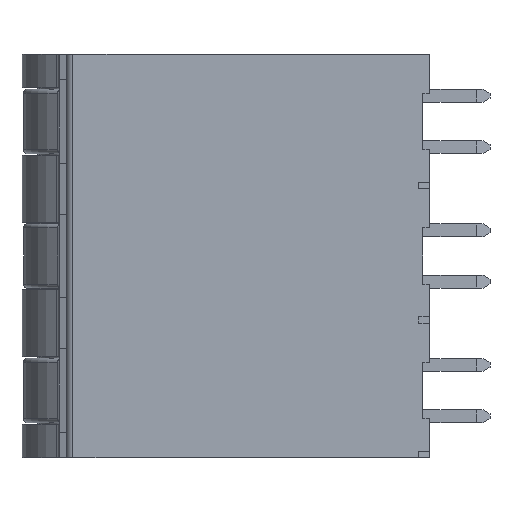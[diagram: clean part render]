
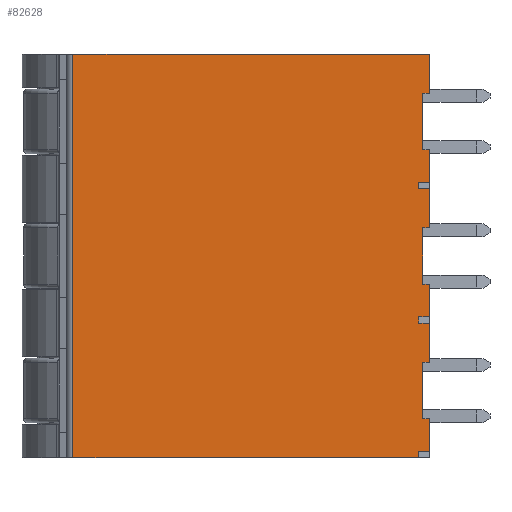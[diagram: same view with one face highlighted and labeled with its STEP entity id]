
A CAD part, left-side view. The second image highlights one B-rep face of the part: STEP entity #82628.
In plain terms, the highlighted planar face has unit normal (-1, 0, 0).
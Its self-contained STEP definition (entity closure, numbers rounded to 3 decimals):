
#16205=DIRECTION('',(0.,0.,-1.));
#16206=VECTOR('',#16205,30.);
#16207=CARTESIAN_POINT('',(0.,26.5,10.));
#16208=LINE('',#16207,#16206);
#16209=DIRECTION('',(0.,-1.,0.));
#16210=VECTOR('',#16209,0.8);
#16211=CARTESIAN_POINT('',(0.,0.8,-19.5));
#16212=LINE('',#16211,#16210);
#16213=DIRECTION('',(0.,0.,1.));
#16214=VECTOR('',#16213,0.5);
#16215=CARTESIAN_POINT('',(0.,0.8,-20.));
#16216=LINE('',#16215,#16214);
#16217=DIRECTION('',(0.,-1.,0.));
#16218=VECTOR('',#16217,25.7);
#16219=CARTESIAN_POINT('',(0.,26.5,-20.));
#16220=LINE('',#16219,#16218);
#16221=DIRECTION('',(0.,1.,0.));
#16222=VECTOR('',#16221,26.5);
#16223=CARTESIAN_POINT('',(0.,0.,10.));
#16224=LINE('',#16223,#16222);
#16225=DIRECTION('',(0.,-1.,0.));
#16226=VECTOR('',#16225,0.8);
#16227=CARTESIAN_POINT('',(0.,0.8,0.5));
#16228=LINE('',#16227,#16226);
#16229=DIRECTION('',(0.,0.,1.));
#16230=VECTOR('',#16229,0.5);
#16231=CARTESIAN_POINT('',(0.,0.8,0.));
#16232=LINE('',#16231,#16230);
#16233=DIRECTION('',(0.,1.,0.));
#16234=VECTOR('',#16233,0.8);
#16235=CARTESIAN_POINT('',(0.,0.,0.));
#16236=LINE('',#16235,#16234);
#16237=DIRECTION('',(0.,-1.,0.));
#16238=VECTOR('',#16237,0.8);
#16239=CARTESIAN_POINT('',(0.,0.8,-9.5));
#16240=LINE('',#16239,#16238);
#16241=DIRECTION('',(0.,0.,1.));
#16242=VECTOR('',#16241,0.5);
#16243=CARTESIAN_POINT('',(0.,0.8,-10.));
#16244=LINE('',#16243,#16242);
#16245=DIRECTION('',(0.,1.,0.));
#16246=VECTOR('',#16245,0.8);
#16247=CARTESIAN_POINT('',(0.,0.,-10.));
#16248=LINE('',#16247,#16246);
#16257=DIRECTION('',(0.,0.,1.));
#16258=VECTOR('',#16257,4.2);
#16259=CARTESIAN_POINT('',(0.,0.5,-17.1));
#16260=LINE('',#16259,#16258);
#16265=DIRECTION('',(0.,-1.,0.));
#16266=VECTOR('',#16265,0.5);
#16267=CARTESIAN_POINT('',(0.,0.5,-17.1));
#16268=LINE('',#16267,#16266);
#16437=DIRECTION('',(0.,1.,0.));
#16438=VECTOR('',#16437,0.5);
#16439=CARTESIAN_POINT('',(0.,0.,-12.9));
#16440=LINE('',#16439,#16438);
#16461=DIRECTION('',(0.,0.,-1.));
#16462=VECTOR('',#16461,2.9);
#16463=CARTESIAN_POINT('',(0.,0.,-10.));
#16464=LINE('',#16463,#16462);
#16533=DIRECTION('',(0.,0.,-1.));
#16534=VECTOR('',#16533,2.4);
#16535=CARTESIAN_POINT('',(0.,0.,-17.1));
#16536=LINE('',#16535,#16534);
#16905=DIRECTION('',(0.,0.,-1.));
#16906=VECTOR('',#16905,2.9);
#16907=CARTESIAN_POINT('',(0.,0.,10.));
#16908=LINE('',#16907,#16906);
#17627=DIRECTION('',(0.,0.,-1.));
#17628=VECTOR('',#17627,2.4);
#17629=CARTESIAN_POINT('',(0.,0.,2.9));
#17630=LINE('',#17629,#17628);
#17639=DIRECTION('',(0.,-1.,0.));
#17640=VECTOR('',#17639,0.5);
#17641=CARTESIAN_POINT('',(0.,0.5,2.9));
#17642=LINE('',#17641,#17640);
#17643=DIRECTION('',(0.,0.,1.));
#17644=VECTOR('',#17643,4.2);
#17645=CARTESIAN_POINT('',(0.,0.5,2.9));
#17646=LINE('',#17645,#17644);
#17659=DIRECTION('',(0.,1.,0.));
#17660=VECTOR('',#17659,0.5);
#17661=CARTESIAN_POINT('',(0.,0.,7.1));
#17662=LINE('',#17661,#17660);
#33443=DIRECTION('',(0.,0.,-1.));
#33444=VECTOR('',#33443,2.4);
#33445=CARTESIAN_POINT('',(0.,0.,-7.1));
#33446=LINE('',#33445,#33444);
#33455=DIRECTION('',(0.,-1.,0.));
#33456=VECTOR('',#33455,0.5);
#33457=CARTESIAN_POINT('',(0.,0.5,-7.1));
#33458=LINE('',#33457,#33456);
#33467=DIRECTION('',(0.,0.,1.));
#33468=VECTOR('',#33467,4.2);
#33469=CARTESIAN_POINT('',(0.,0.5,-7.1));
#33470=LINE('',#33469,#33468);
#33475=DIRECTION('',(0.,1.,0.));
#33476=VECTOR('',#33475,0.5);
#33477=CARTESIAN_POINT('',(0.,0.,-2.9));
#33478=LINE('',#33477,#33476);
#33499=DIRECTION('',(0.,0.,-1.));
#33500=VECTOR('',#33499,2.9);
#33501=CARTESIAN_POINT('',(0.,0.,0.));
#33502=LINE('',#33501,#33500);
#47771=CARTESIAN_POINT('',(0.,0.,0.));
#47772=VERTEX_POINT('',#47771);
#47838=CARTESIAN_POINT('',(0.,0.,-2.9));
#47839=VERTEX_POINT('',#47838);
#47840=CARTESIAN_POINT('',(0.,0.5,-2.9));
#47841=VERTEX_POINT('',#47840);
#53057=CARTESIAN_POINT('',(0.,0.8,-9.5));
#53058=VERTEX_POINT('',#53057);
#53059=CARTESIAN_POINT('',(0.,0.,-9.5));
#53060=VERTEX_POINT('',#53059);
#53077=CARTESIAN_POINT('',(0.,0.5,-7.1));
#53078=CARTESIAN_POINT('',(0.,0.,-7.1));
#53079=VERTEX_POINT('',#53077);
#53080=VERTEX_POINT('',#53078);
#53939=CARTESIAN_POINT('',(0.,0.8,0.5));
#53940=VERTEX_POINT('',#53939);
#53941=CARTESIAN_POINT('',(0.,0.,0.5));
#53942=VERTEX_POINT('',#53941);
#53959=CARTESIAN_POINT('',(0.,0.5,2.9));
#53960=CARTESIAN_POINT('',(0.,0.,2.9));
#53961=VERTEX_POINT('',#53959);
#53962=VERTEX_POINT('',#53960);
#54545=CARTESIAN_POINT('',(0.,0.,10.));
#54546=VERTEX_POINT('',#54545);
#54547=CARTESIAN_POINT('',(0.,26.5,10.));
#54548=VERTEX_POINT('',#54547);
#54714=CARTESIAN_POINT('',(0.,0.,7.1));
#54715=VERTEX_POINT('',#54714);
#54716=CARTESIAN_POINT('',(0.,0.5,7.1));
#54717=VERTEX_POINT('',#54716);
#55558=CARTESIAN_POINT('',(0.,0.,-10.));
#55559=VERTEX_POINT('',#55558);
#55625=CARTESIAN_POINT('',(0.,0.,-12.9));
#55626=VERTEX_POINT('',#55625);
#55627=CARTESIAN_POINT('',(0.,0.5,-12.9));
#55628=VERTEX_POINT('',#55627);
#58377=CARTESIAN_POINT('',(0.,26.5,-20.));
#58378=VERTEX_POINT('',#58377);
#58379=CARTESIAN_POINT('',(0.,0.8,-20.));
#58380=VERTEX_POINT('',#58379);
#58846=CARTESIAN_POINT('',(0.,0.8,-19.5));
#58847=VERTEX_POINT('',#58846);
#58848=CARTESIAN_POINT('',(0.,0.,-19.5));
#58849=VERTEX_POINT('',#58848);
#58866=CARTESIAN_POINT('',(0.,0.5,-17.1));
#58867=CARTESIAN_POINT('',(0.,0.,-17.1));
#58868=VERTEX_POINT('',#58866);
#58869=VERTEX_POINT('',#58867);
#59907=CARTESIAN_POINT('',(0.,0.8,0.));
#59908=VERTEX_POINT('',#59907);
#60217=CARTESIAN_POINT('',(0.,0.8,-10.));
#60218=VERTEX_POINT('',#60217);
#82575=CARTESIAN_POINT('',(0.,13.25,-2.5));
#82576=DIRECTION('',(1.,0.,0.));
#82577=DIRECTION('',(0.,-1.,0.));
#82578=AXIS2_PLACEMENT_3D('',#82575,#82576,#82577);
#82579=PLANE('',#82578);
#82581=ORIENTED_EDGE('',*,*,#82580,.F.);
#82583=ORIENTED_EDGE('',*,*,#82582,.T.);
#82585=ORIENTED_EDGE('',*,*,#82584,.T.);
#82587=ORIENTED_EDGE('',*,*,#82586,.F.);
#82589=ORIENTED_EDGE('',*,*,#82588,.F.);
#82590=ORIENTED_EDGE('',*,*,#64572,.F.);
#82591=ORIENTED_EDGE('',*,*,#82567,.F.);
#82592=ORIENTED_EDGE('',*,*,#68926,.F.);
#82594=ORIENTED_EDGE('',*,*,#82593,.T.);
#82596=ORIENTED_EDGE('',*,*,#82595,.T.);
#82598=ORIENTED_EDGE('',*,*,#82597,.F.);
#82600=ORIENTED_EDGE('',*,*,#82599,.T.);
#82602=ORIENTED_EDGE('',*,*,#82601,.T.);
#82604=ORIENTED_EDGE('',*,*,#82603,.F.);
#82606=ORIENTED_EDGE('',*,*,#82605,.F.);
#82607=ORIENTED_EDGE('',*,*,#68411,.F.);
#82609=ORIENTED_EDGE('',*,*,#82608,.T.);
#82611=ORIENTED_EDGE('',*,*,#82610,.T.);
#82613=ORIENTED_EDGE('',*,*,#82612,.F.);
#82615=ORIENTED_EDGE('',*,*,#82614,.T.);
#82617=ORIENTED_EDGE('',*,*,#82616,.T.);
#82618=ORIENTED_EDGE('',*,*,#63428,.F.);
#82620=ORIENTED_EDGE('',*,*,#82619,.F.);
#82621=ORIENTED_EDGE('',*,*,#63629,.F.);
#82623=ORIENTED_EDGE('',*,*,#82622,.T.);
#82625=ORIENTED_EDGE('',*,*,#82624,.T.);
#82626=EDGE_LOOP('',(#82581,#82583,#82585,#82587,#82589,#82590,#82591,#82592,
#82594,#82596,#82598,#82600,#82602,#82604,#82606,#82607,#82609,#82611,#82613,
#82615,#82617,#82618,#82620,#82621,#82623,#82625));
#82627=FACE_OUTER_BOUND('',#82626,.F.);
#82628=ADVANCED_FACE('',(#82627),#82579,.F.);
#63428=EDGE_CURVE('',#53058,#53060,#16240,.T.);
#63629=EDGE_CURVE('',#55559,#60218,#16248,.T.);
#64572=EDGE_CURVE('',#58378,#58380,#16220,.T.);
#68411=EDGE_CURVE('',#47772,#59908,#16236,.T.);
#68926=EDGE_CURVE('',#54546,#54548,#16224,.T.);
#82567=EDGE_CURVE('',#54548,#58378,#16208,.T.);
#82580=EDGE_CURVE('',#58868,#55628,#16260,.T.);
#82582=EDGE_CURVE('',#58868,#58869,#16268,.T.);
#82584=EDGE_CURVE('',#58869,#58849,#16536,.T.);
#82586=EDGE_CURVE('',#58847,#58849,#16212,.T.);
#82588=EDGE_CURVE('',#58380,#58847,#16216,.T.);
#82593=EDGE_CURVE('',#54546,#54715,#16908,.T.);
#82595=EDGE_CURVE('',#54715,#54717,#17662,.T.);
#82597=EDGE_CURVE('',#53961,#54717,#17646,.T.);
#82599=EDGE_CURVE('',#53961,#53962,#17642,.T.);
#82601=EDGE_CURVE('',#53962,#53942,#17630,.T.);
#82603=EDGE_CURVE('',#53940,#53942,#16228,.T.);
#82605=EDGE_CURVE('',#59908,#53940,#16232,.T.);
#82608=EDGE_CURVE('',#47772,#47839,#33502,.T.);
#82610=EDGE_CURVE('',#47839,#47841,#33478,.T.);
#82612=EDGE_CURVE('',#53079,#47841,#33470,.T.);
#82614=EDGE_CURVE('',#53079,#53080,#33458,.T.);
#82616=EDGE_CURVE('',#53080,#53060,#33446,.T.);
#82619=EDGE_CURVE('',#60218,#53058,#16244,.T.);
#82622=EDGE_CURVE('',#55559,#55626,#16464,.T.);
#82624=EDGE_CURVE('',#55626,#55628,#16440,.T.);
